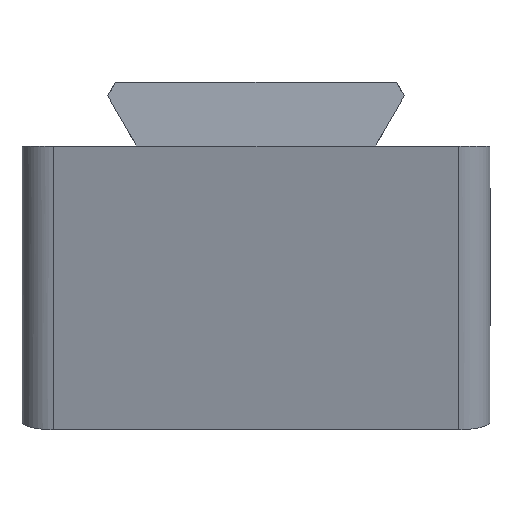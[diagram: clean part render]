
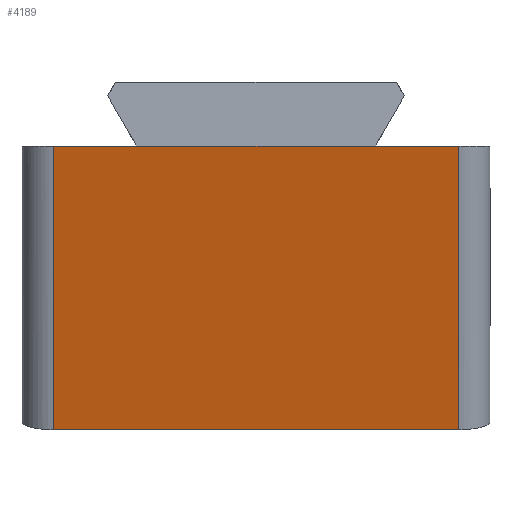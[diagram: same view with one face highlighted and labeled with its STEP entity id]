
A CAD part, left-side view. The second image highlights one B-rep face of the part: STEP entity #4189.
In plain terms, the highlighted planar face has unit normal (-0.97, 0, -0.242).
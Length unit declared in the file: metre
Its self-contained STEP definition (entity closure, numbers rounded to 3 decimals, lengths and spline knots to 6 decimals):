
#512=ORIENTED_EDGE('',*,*,#1566,.T.);
#513=ORIENTED_EDGE('',*,*,#1721,.T.);
#514=ORIENTED_EDGE('',*,*,#1496,.F.);
#515=ORIENTED_EDGE('',*,*,#1722,.T.);
#516=ORIENTED_EDGE('',*,*,#1578,.T.);
#517=ORIENTED_EDGE('',*,*,#1716,.T.);
#1496=EDGE_CURVE('',#2119,#2120,#2534,.T.);
#1566=EDGE_CURVE('',#2180,#2187,#2579,.T.);
#1578=EDGE_CURVE('',#2196,#2172,#2585,.T.);
#1716=EDGE_CURVE('',#2172,#2180,#2681,.T.);
#1721=EDGE_CURVE('',#2187,#2120,#2682,.T.);
#1722=EDGE_CURVE('',#2119,#2196,#2683,.F.);
#2119=VERTEX_POINT('',#5800);
#2120=VERTEX_POINT('',#5802);
#2172=VERTEX_POINT('',#5913);
#2180=VERTEX_POINT('',#5931);
#2187=VERTEX_POINT('',#5948);
#2196=VERTEX_POINT('',#5970);
#2534=LINE('',#5801,#3001);
#2579=LINE('',#5949,#3046);
#2585=LINE('',#5969,#3052);
#2681=LINE('',#6292,#3148);
#2682=LINE('',#6304,#3149);
#2683=LINE('',#6305,#3150);
#3001=VECTOR('',#4730,1.);
#3046=VECTOR('',#4845,1.);
#3052=VECTOR('',#4863,1.);
#3148=VECTOR('',#5007,1.);
#3149=VECTOR('',#5026,1.);
#3150=VECTOR('',#5027,1.);
#3509=EDGE_LOOP('',(#512,#513,#514,#515,#516,#517));
#3780=FACE_BOUND('',#3509,.T.);
#4024=PLANE('',#4491);
#4189=ADVANCED_FACE('',(#3780),#4024,.F.);
#4491=AXIS2_PLACEMENT_3D('',#6303,#5024,#5025);
#4730=DIRECTION('',(0.,1.,0.));
#4845=DIRECTION('',(0.,1.,0.));
#4863=DIRECTION('',(0.,1.,0.));
#5007=DIRECTION('',(0.,1.,0.));
#5024=DIRECTION('',(0.97,0.,0.242));
#5025=DIRECTION('',(0.242,0.,-0.97));
#5026=DIRECTION('',(0.242,0.,-0.97));
#5027=DIRECTION('',(0.242,0.,-0.97));
#5800=CARTESIAN_POINT('',(0.004527,-0.013,-0.018157));
#5801=CARTESIAN_POINT('',(0.004527,-0.015,-0.018157));
#5802=CARTESIAN_POINT('',(0.004527,0.013,-0.018157));
#5913=CARTESIAN_POINT('',(0.,-0.007695,0.));
#5931=CARTESIAN_POINT('',(0.,0.007695,0.));
#5948=CARTESIAN_POINT('',(0.,0.013,0.));
#5949=CARTESIAN_POINT('',(0.,-0.015,0.));
#5969=CARTESIAN_POINT('',(0.,-0.015,0.));
#5970=CARTESIAN_POINT('',(0.,-0.013,0.));
#6292=CARTESIAN_POINT('',(0.,0.,0.));
#6303=CARTESIAN_POINT('',(0.002264,-0.015,-0.009079));
#6304=CARTESIAN_POINT('',(0.002264,0.013,-0.009079));
#6305=CARTESIAN_POINT('',(0.,-0.013,0.));
